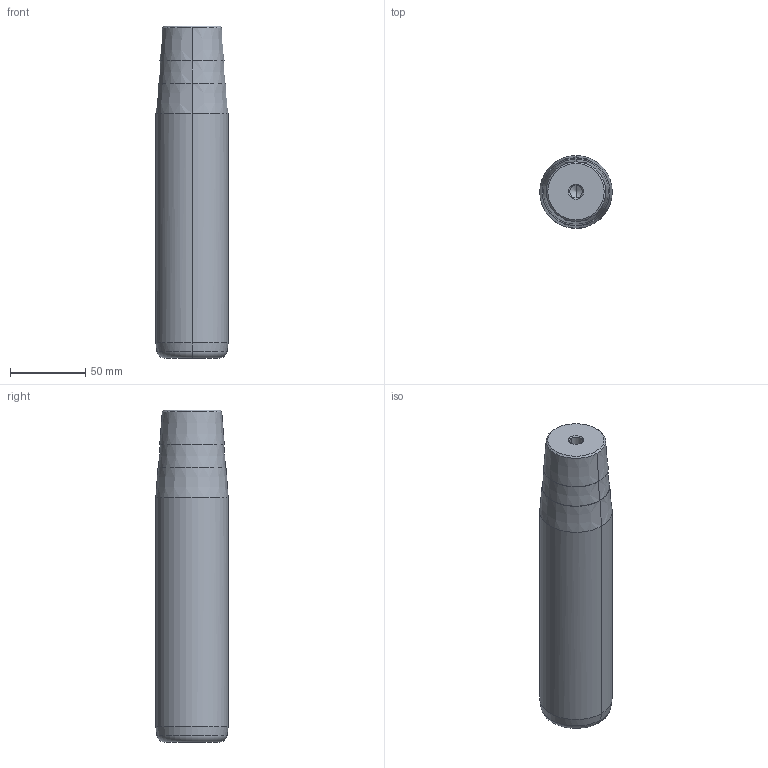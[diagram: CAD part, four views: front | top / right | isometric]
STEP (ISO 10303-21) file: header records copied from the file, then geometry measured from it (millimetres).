
FILE_DESCRIPTION(('CATIA V5 STEP Exchange'),'2;1');
FILE_NAME('C:\Users\Utente\Desktop\IO LAVORO\3D X SITO CF\X SITO\722\722-48x180x220.stp','2021-01-08T15:04:08+00:00',('none'),('none'),'CATIA Version 5 Release 20 GA (IN-10)','CATIA V5 STEP AP203','none');
FILE_SCHEMA(('CONFIG_CONTROL_DESIGN'));
Length unit declared in the file: millimetre
Products named in the file (1): 722-48x180x220
Bounding box: 48 x 48 x 220 mm (x, y, z)
Volume: 375274.8 mm3; surface area: 36310 mm2
Topology: 1 solids, 1 shells, 32 faces, 98 edges, 66 vertices
Faces by surface type: cone 22, cylinder 6, plane 2, torus 2
Entity records: 1166 total; most frequent: CARTESIAN_POINT 279, ORIENTED_EDGE 188, DIRECTION 148, EDGE_CURVE 94, AXIS2_PLACEMENT_3D 89, VERTEX_POINT 66, CIRCLE 56, EDGE_LOOP 34
